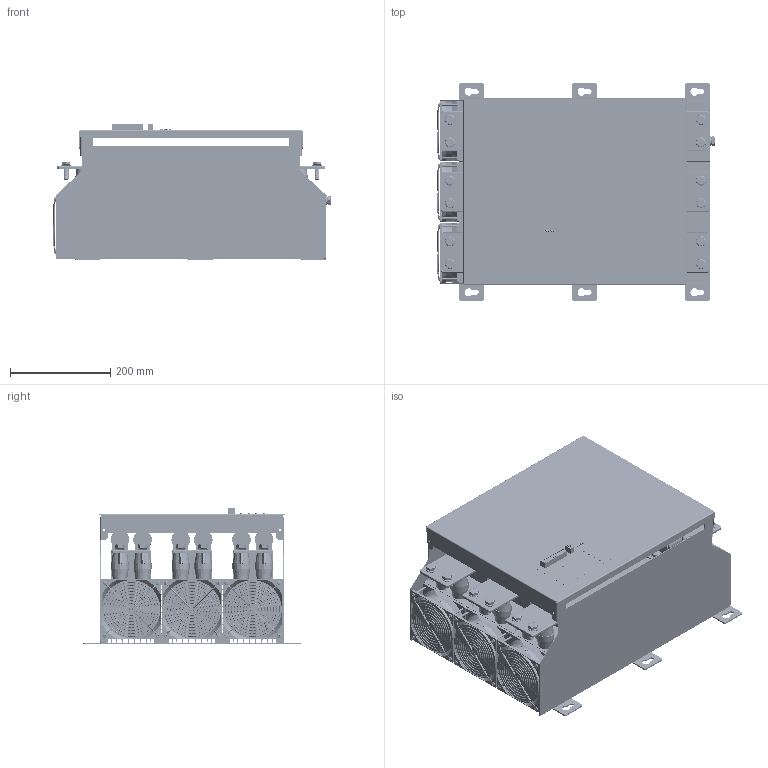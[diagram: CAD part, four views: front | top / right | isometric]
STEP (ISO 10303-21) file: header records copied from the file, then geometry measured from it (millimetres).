
FILE_DESCRIPTION(('STEP AP203'), '1');
FILE_NAME('ÒÐÌ-2Ì-720 RS485, ÒÐÌ-3Ì-720 RS485, ÒÐÌ-3ÌN-720 RS485', '2025-06-27T10:44:16', (''), ('ÎÎÎ "Ìåàíäð"'), 'C3D Converter', 'C3D Toolkit', '');
FILE_SCHEMA(('CONFIG_CONTROL_DESIGN'));
Length unit declared in the file: millimetre
Assembly tree (27 placements, depth 2):
  (unnamed)
    (unnamed)
    (unnamed)  x25
    (unnamed)
Bounding box: 552.89 x 433 x 271.4 mm (x, y, z)
Volume: 17806327.3 mm3; surface area: 5077293.2 mm2
Topology: 27 solids, 61 shells, 6984 faces, 19830 edges, 12953 vertices
Faces by surface type: plane 3667, extrusion 1466, cylinder 1309, torus 236, bspline 170, cone 120, sphere 16
Full cylindrical faces by diameter (mm): 3.3 x4, 4 x16, 4.134 x10, 4.2 x4, 4.572 x12, 6.1 x4, 6.647 x12, 8 x12, 9.1 x1, 9.9 x1, 10 x25, 15.6 x25, 20 x25, 33.5 x6, 37 x12, 116 x3, 118.662 x3
Entity records: 235234 total; most frequent: CARTESIAN_POINT 77988, ORIENTED_EDGE 32292, DIRECTION 24270, EDGE_CURVE 16146, VECTOR 11696, VERTEX_POINT 10778, LINE 10230, EDGE_LOOP 6631
